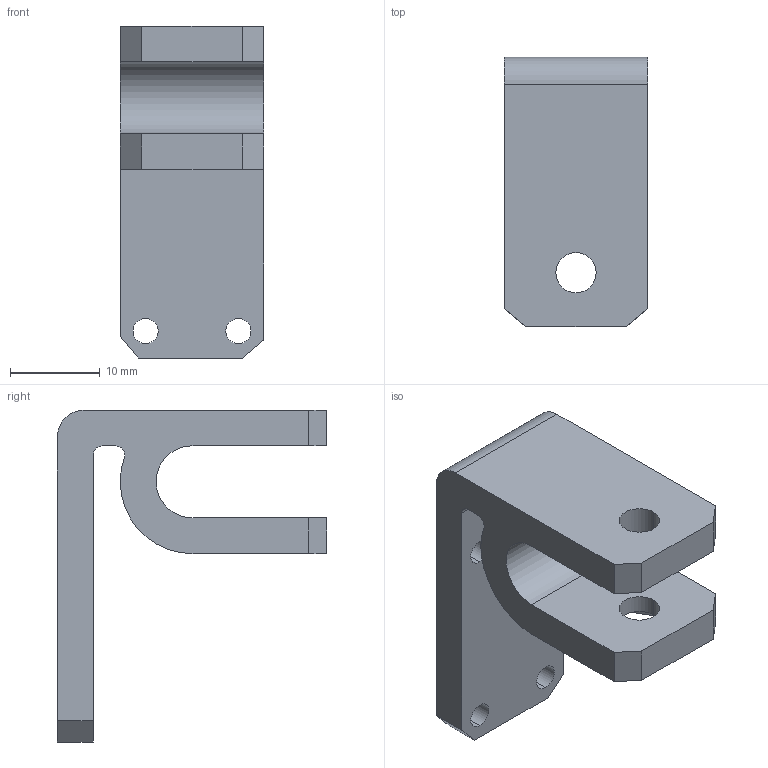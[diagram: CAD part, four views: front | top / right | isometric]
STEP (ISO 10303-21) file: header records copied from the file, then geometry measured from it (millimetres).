
FILE_DESCRIPTION (( 'STEP AP203' ), '1' );
FILE_NAME ('X HOME SWITCH MOUNT.STEP', '2012-08-20T19:14:31', ( '' ), ( '' ), 'SwSTEP 2.0', 'SolidWorks 2012', '' );
FILE_SCHEMA (( 'CONFIG_CONTROL_DESIGN' ));
Length unit declared in the file: millimetre
Products named in the file (1): X HOME SWITCH MOUNT
Bounding box: 16 x 30 x 37 mm (x, y, z)
Volume: 5473.3 mm3; surface area: 3850 mm2
Topology: 1 solids, 1 shells, 42 faces, 117 edges, 78 vertices
Faces by surface type: plane 25, cylinder 17
Entity records: 1456 total; most frequent: CARTESIAN_POINT 238, DIRECTION 237, ORIENTED_EDGE 234, EDGE_CURVE 117, VECTOR 83, LINE 83, VERTEX_POINT 78, AXIS2_PLACEMENT_3D 77
